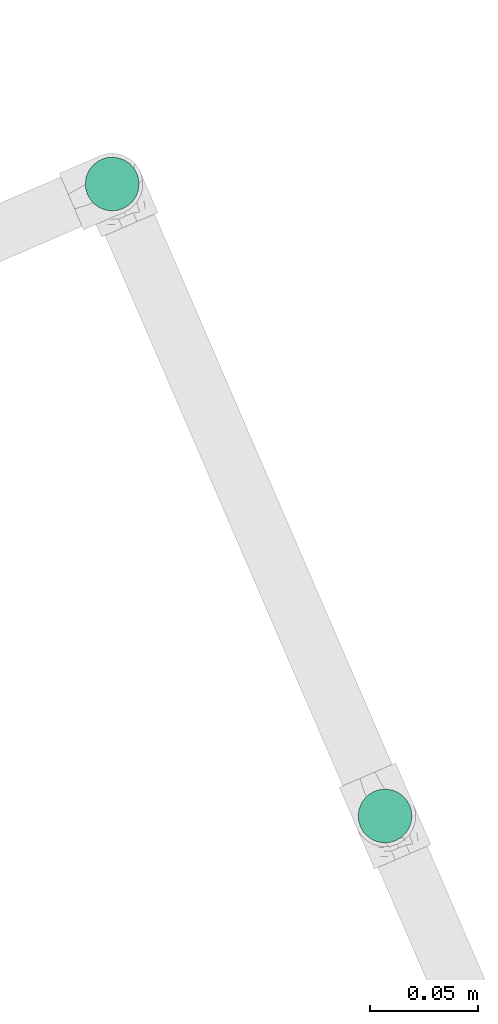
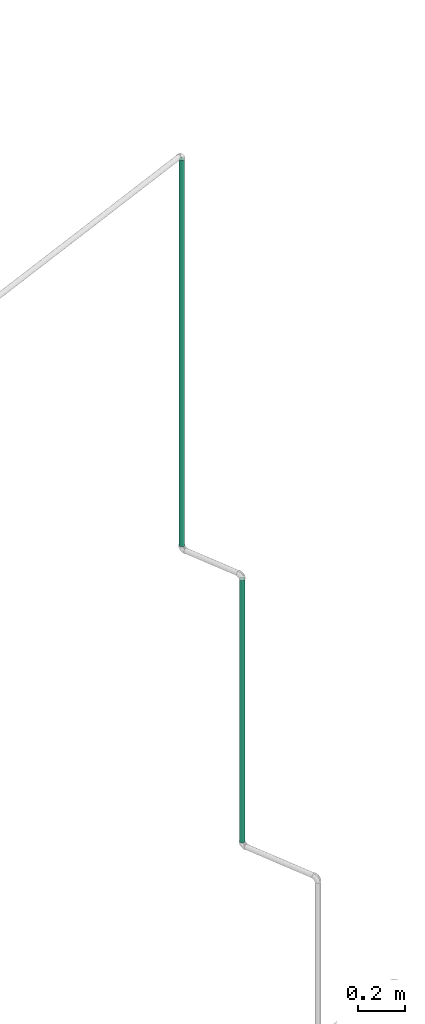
# One storey, part 4 of 26: 2 pipe segments.
"""IFC4 building model written with IfcOpenShell, lengths in metres."""

from ifc_helpers import new_model, entity, si_unit, converted_unit, derived_unit, direction, frame, origin, place, context, subcontext, project, spatial, arc, indexed_curve, outline, extrude, material, type_object, element, save


model = new_model("IFC4")

# Units and contexts
model_context = context("Model", 3, precision=1e-05, world=origin(), true_north=direction((6.12323399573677e-17, 1.0)))
body_context = subcontext(model_context, "Body", "Model", "MODEL_VIEW")
ifc_project = project(units=[si_unit("LENGTHUNIT", "METRE"), si_unit("AREAUNIT", "SQUARE_METRE"), si_unit("VOLUMEUNIT", "CUBIC_METRE"), si_unit("PRESSUREUNIT", "PASCAL"), derived_unit("VOLUMETRICFLOWRATEUNIT", [(si_unit("LENGTHUNIT", "METRE", prefix="DECI"), 3), (si_unit("TIMEUNIT", "SECOND"), -1)]), converted_unit("PLANEANGLEUNIT", "DEGREE", entity("IfcPlaneAngleMeasure", 0.0174532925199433), si_unit("PLANEANGLEUNIT", "RADIAN"), dimensions=[0, 0, 0, 0, 0, 0, 0])], contexts=[model_context])

# Site, building, storey
site_placement = place(None, origin())
site = spatial("IfcSite", under=ifc_project, at=site_placement, Name="Default", CompositionType="ELEMENT")
building_placement = place(site_placement, frame((24.575451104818, -55.896759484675, 317.15), z_axis=(0.0, 0.0, 1.0), x_axis=(-0.396377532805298, 0.918087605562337, 0.0)))
building = spatial("IfcBuilding", under=site, at=building_placement, CompositionType="ELEMENT")
storey_placement = place(building_placement, origin())
storey = spatial("IfcBuildingStorey", under=building, at=storey_placement, Name="Nivel 1", CompositionType="ELEMENT", Elevation=0.0)

# Pipe segments
ifc_material = material(Name="Cobre", Category="Undefined")
pipe_segment_type = type_object("IfcPipeSegmentType", Name="Pipe Types:GAS", PredefinedType="NOTDEFINED")
pipe_segment_1_placement = place(storey_placement, origin())
element("IfcPipeSegment", 1, at=pipe_segment_1_placement, inside=storey, type_object=pipe_segment_type, material=ifc_material, Name="Pipe Types:GAS", ObjectType="Pipe Types:GAS", PredefinedType="NOTDEFINED", context=body_context, shape_type="SweptSolid", body=[
    extrude(outline(indexed_curve([(0.0125000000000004, 0.0), (0.00883883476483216, 0.00883883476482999), (0.0, 0.0124999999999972), (-0.00883883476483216, 0.00883883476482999), (-0.0125000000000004, 0.0), (-0.00883883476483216, -0.00883883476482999), (0.0, -0.0124999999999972), (0.00883883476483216, -0.00883883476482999)], segments=[arc(1, 2, 3), arc(3, 4, 5), arc(5, 6, 7), arc(7, 8, 1)], self_intersect=False)), frame((-5.8944088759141, 51.0104448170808, 0.420637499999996), z_axis=(0.0, 0.0, 1.0), x_axis=(-1.0, 0.0, 0.0)), (0.0, 0.0, 1.0), 1.35872499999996),
])
pipe_segment_2_placement = place(storey_placement, origin())
element("IfcPipeSegment", 2, at=pipe_segment_2_placement, inside=storey, type_object=pipe_segment_type, material=ifc_material, Name="Pipe Types:GAS", ObjectType="Pipe Types:GAS", PredefinedType="NOTDEFINED", context=body_context, shape_type="SweptSolid", body=[
    extrude(outline(indexed_curve([(0.0125000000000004, 0.0), (0.00883883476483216, 0.00883883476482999), (0.0, 0.0124999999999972), (-0.00883883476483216, 0.00883883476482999), (-0.0125000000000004, 0.0), (-0.00883883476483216, -0.00883883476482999), (0.0, -0.0124999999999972), (0.00883883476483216, -0.00883883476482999)], segments=[arc(1, 2, 3), arc(3, 4, 5), arc(5, 6, 7), arc(7, 8, 1)], self_intersect=False)), frame((-5.57440887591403, 51.0104448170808, 1.82063749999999), z_axis=(0.0, 0.0, 1.0), x_axis=(-1.0, 0.0, 0.0)), (0.0, 0.0, 1.0), 2.00079223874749),
])

save(model, "model.ifc")
